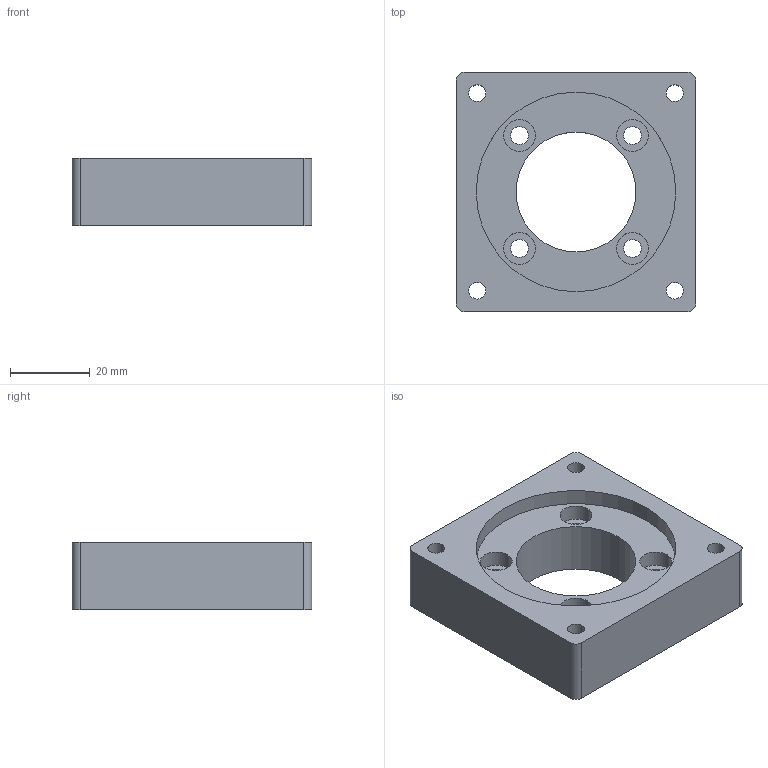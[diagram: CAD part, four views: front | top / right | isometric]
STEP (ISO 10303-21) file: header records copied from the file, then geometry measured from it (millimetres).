
FILE_DESCRIPTION (( 'STEP AP214' ), '1' );
FILE_NAME ('KK-60-F7 安川200W(400W)电机板(安川=台达 汇川 三菱 富士 禾川).STEP', '2023-03-01T03:33:34', ( '微软用户' ), ( '微软中国' ), 'SwSTEP 2.0', 'SolidWorks 2018', '' );
FILE_SCHEMA (( 'AUTOMOTIVE_DESIGN' ));
Length unit declared in the file: millimetre
Products named in the file (1): KK-60-F7 安川200W(400W)电机板(安川=台达 汇川 三菱 富士 禾川)
Bounding box: 60 x 60 x 17 mm (x, y, z)
Volume: 41779.6 mm3; surface area: 13224.8 mm2
Topology: 1 solids, 1 shells, 43 faces, 108 edges, 72 vertices
Faces by surface type: cylinder 32, plane 11
Entity records: 1484 total; most frequent: DIRECTION 260, CARTESIAN_POINT 224, ORIENTED_EDGE 216, AXIS2_PLACEMENT_3D 108, EDGE_CURVE 108, VERTEX_POINT 72, EDGE_LOOP 66, CIRCLE 64
